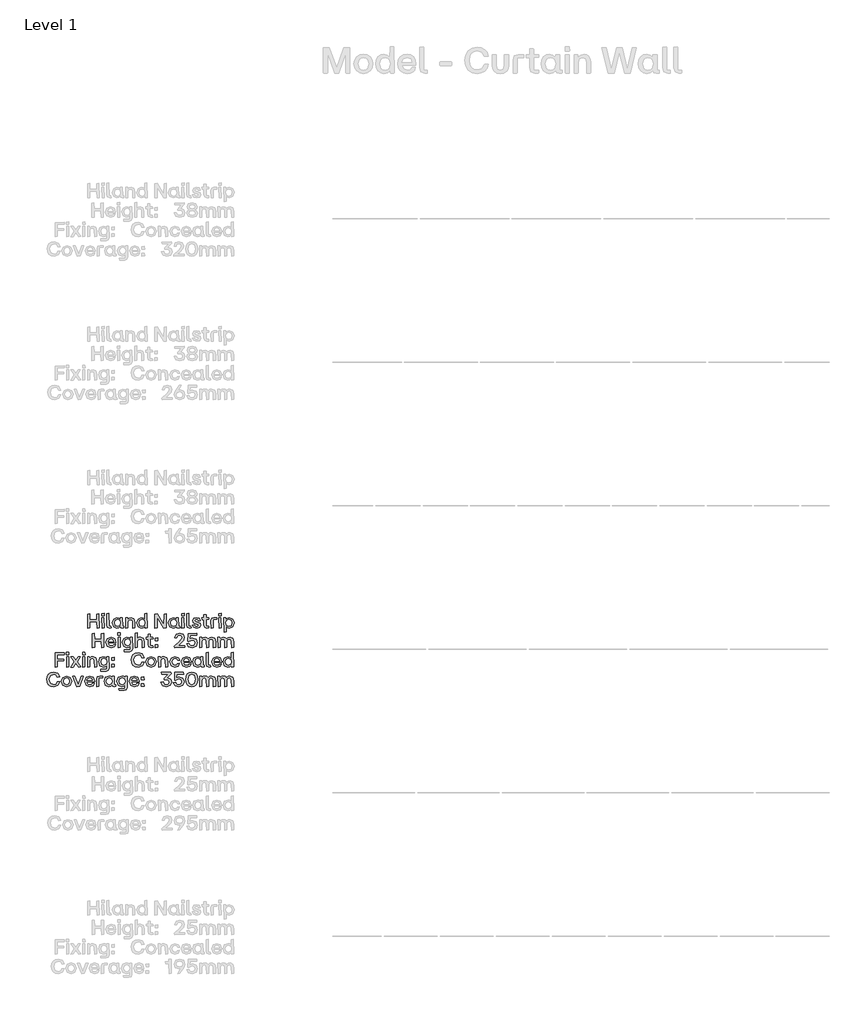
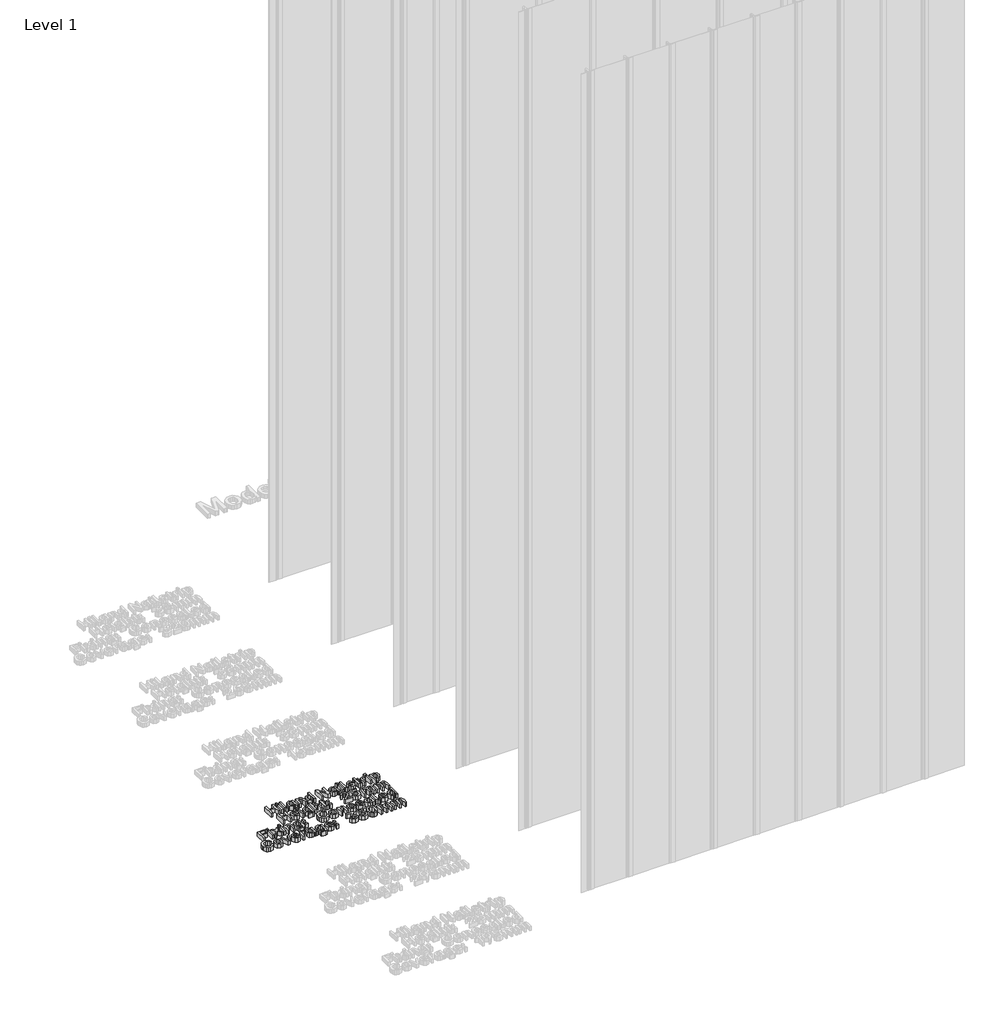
# One storey, part 12 of 64: 1 proxy.
"""IFC4 building model written with IfcOpenShell, lengths in millimetres."""

from ifc_helpers import new_model, si_unit, origin, origin_with_axes, place, context, project, spatial, polyline, outline, extrude, element, save

model = new_model("IFC4")

# Units and contexts
model_context = context("Model", 3, world=origin())
ifc_project = project(units=[si_unit("LENGTHUNIT", "METRE", prefix="MILLI")], contexts=[model_context])

# Site, building, storey
site = spatial("IfcSite", under=ifc_project)
building = spatial("IfcBuilding", under=site)
storey = spatial("IfcBuildingStorey", under=building, Name="Level 1", Elevation=0.0)

# Proxy
placement = place(None, origin())
element("IfcBuildingElementProxy", 1, Name="50mm", ObjectType="50mm", at=placement, inside=storey, context=model_context, shape_type="SweptSolid", body=[
    extrude(outline(polyline([(-779.9316481, -3433.5188866), (-780.6289799, -3411.5808277), (-804.4777279, -3411.5808277), (-804.4777279, -3432.8215548), (-811.9810183, -3433.5188866), (-812.7062434, -3384.2454206), (-805.2168997, -3383.5201955), (-804.4777279, -3404.6075096), (-780.6289799, -3404.6075096), (-780.6289799, -3384.2454206), (-773.1396362, -3383.5201955), (-772.4423044, -3432.8215548), (-779.9316481, -3433.5188866)])), origin_with_axes(), (0.0, 0.0, 1.0), 20.0),
    extrude(outline(polyline([(-762.3449397, -3433.5188866), (-763.0701648, -3397.8154977), (-755.8597538, -3397.1181659), (-755.162422, -3432.8215548), (-762.3449397, -3433.5188866)])), origin_with_axes(), (0.0, 0.0, 1.0), 20.0),
    extrude(outline(polyline([(-763.2793643, -3390.4516737), (-763.6280302, -3382.4044646), (-755.2321552, -3381.6652929), (-754.4929835, -3390.1030078), (-763.2793643, -3390.4516737)])), origin_with_axes(), (0.0, 0.0, 1.0), 20.0),
    extrude(outline(polyline([(-735.7626509, -3433.5188866), (-743.4611942, -3430.8690257), (-746.1110551, -3423.1565359), (-746.1110551, -3382.8228637), (-738.9006441, -3382.083692), (-738.2033123, -3427.2429003), (-731.5368201, -3427.2429003), (-730.8394883, -3432.8215548), (-735.7626509, -3433.5188866)])), origin_with_axes(), (0.0, 0.0, 1.0), 20.0),
    extrude(outline(polyline([(-710.6726522, -3433.9372857), (-722.4436133, -3428.8955767), (-726.8228571, -3415.3882594), (-722.4436133, -3401.7484491), (-710.6726522, -3396.6579269), (-704.0549733, -3398.2617901), (-699.0690509, -3402.6549805), (-698.7482782, -3397.8154977), (-691.5657605, -3397.1181659), (-690.8405354, -3427.2429003), (-686.8936374, -3427.2429003), (-686.1963056, -3432.8215548), (-692.1933592, -3433.5188866), (-696.848049, -3432.2113895), (-698.3996123, -3428.288898), (-703.7551206, -3432.3334225), (-710.6726522, -3433.9372857)]), holes=[polyline([(-718.7617013, -3415.3882594), (-716.0072406, -3424.2792401), (-708.4830304, -3427.521833), (-701.1192064, -3424.2931867), (-698.4693455, -3415.3882594), (-701.1401263, -3406.392679), (-708.4830304, -3403.1152195), (-716.0072406, -3406.392679), (-718.7617013, -3415.3882594)])]), origin_with_axes(), (0.0, 0.0, 1.0), 20.0),
    extrude(outline(polyline([(-679.3345605, -3433.5188866), (-680.0597856, -3397.8154977), (-673.1980405, -3397.1181659), (-672.5007087, -3402.6549805), (-667.3369666, -3398.1571903), (-660.7158011, -3396.6579269), (-651.1553819, -3400.8419178), (-647.8430558, -3413.0870644), (-647.8430558, -3432.8215548), (-655.0674134, -3433.5188866), (-655.7926384, -3413.0870644), (-657.7451675, -3405.7092939), (-663.9165541, -3403.3941522), (-670.1437272, -3405.7441604), (-672.1520428, -3413.0870644), (-672.1520428, -3432.8215548), (-679.3345605, -3433.5188866)])), origin_with_axes(), (0.0, 0.0, 1.0), 20.0),
    extrude(outline(polyline([(-624.9845189, -3433.9372857), (-636.7554799, -3428.8955767), (-641.1347237, -3415.3882594), (-636.7554799, -3401.7484491), (-624.9845189, -3396.6579269), (-618.36684, -3398.2617901), (-613.3809175, -3402.6549805), (-613.0601448, -3382.8228637), (-605.8776272, -3382.083692), (-605.1524021, -3432.8215548), (-612.0141471, -3433.5188866), (-612.7114789, -3428.0099653), (-618.0669873, -3432.3334225), (-624.9845189, -3433.9372857)]), holes=[polyline([(-633.0735679, -3415.3882594), (-630.3191073, -3424.2792401), (-622.794897, -3427.521833), (-615.431073, -3424.2931867), (-612.7812121, -3415.3882594), (-615.451993, -3406.392679), (-622.794897, -3403.1152195), (-630.3191073, -3406.392679), (-633.0735679, -3415.3882594)])]), origin_with_axes(), (0.0, 0.0, 1.0), 20.0),
    extrude(outline(polyline([(-578.1238209, -3433.5188866), (-578.849046, -3384.2454206), (-569.992932, -3383.5201955), (-546.7020494, -3420.7856077), (-546.4231166, -3384.2454206), (-539.2127057, -3383.5201955), (-538.5153739, -3432.8215548), (-547.329648, -3433.5188866), (-570.6205306, -3396.2395278), (-570.8994633, -3432.8215548), (-578.1238209, -3433.5188866)])), origin_with_axes(), (0.0, 0.0, 1.0), 20.0),
    extrude(outline(polyline([(-515.196598, -3433.9372857), (-526.967559, -3428.8955767), (-531.3468028, -3415.3882594), (-526.967559, -3401.7484491), (-515.196598, -3396.6579269), (-508.5789191, -3398.2617901), (-503.5929966, -3402.6549805), (-503.272224, -3397.8154977), (-496.0897063, -3397.1181659), (-495.3644812, -3427.2429003), (-491.4175831, -3427.2429003), (-490.7202513, -3432.8215548), (-496.7173049, -3433.5188866), (-501.3719948, -3432.2113895), (-502.923558, -3428.288898), (-508.2790664, -3432.3334225), (-515.196598, -3433.9372857)]), holes=[polyline([(-523.285647, -3415.3882594), (-520.5311864, -3424.2792401), (-513.0069761, -3427.521833), (-505.6431521, -3424.2931867), (-502.9932912, -3415.3882594), (-505.6640721, -3406.392679), (-513.0069761, -3403.1152195), (-520.5311864, -3406.392679), (-523.285647, -3415.3882594)])]), origin_with_axes(), (0.0, 0.0, 1.0), 20.0),
    extrude(outline(polyline([(-484.7929309, -3390.4516737), (-485.1415968, -3382.4044646), (-476.7457217, -3381.6652929), (-476.00655, -3390.1030078), (-484.7929309, -3390.4516737)])), origin_with_axes(), (0.0, 0.0, 1.0), 20.0),
    extrude(outline(polyline([(-483.8585062, -3433.5188866), (-484.5837313, -3397.8154977), (-477.3733204, -3397.1181659), (-476.6759885, -3432.8215548), (-483.8585062, -3433.5188866)])), origin_with_axes(), (0.0, 0.0, 1.0), 20.0),
    extrude(outline(polyline([(-457.2762175, -3433.5188866), (-464.9747607, -3430.8690257), (-467.6246216, -3423.1565359), (-467.6246216, -3382.8228637), (-460.4142106, -3382.083692), (-459.7168788, -3427.2429003), (-453.0503867, -3427.2429003), (-452.3530549, -3432.8215548), (-457.2762175, -3433.5188866)])), origin_with_axes(), (0.0, 0.0, 1.0), 20.0),
    extrude(outline(polyline([(-432.716191, -3433.9372857), (-443.4481276, -3430.9875721), (-447.9180245, -3422.5289372), (-440.9725996, -3421.7339789), (-437.890393, -3426.5455685), (-432.716191, -3427.8007657), (-428.2532673, -3426.6153017), (-426.579671, -3423.4354686), (-427.7790817, -3420.5764081), (-431.8375529, -3419.0841181), (-436.9280751, -3418.1775867), (-444.6545116, -3414.6351411), (-447.1509595, -3407.5363032), (-443.4899675, -3399.6215871), (-433.6227223, -3396.6579269), (-423.9298101, -3399.4123876), (-419.7039793, -3407.2294772), (-426.6494042, -3408.0244355), (-429.3968915, -3403.8613645), (-433.6227223, -3402.7944469), (-437.8764464, -3403.8962311), (-439.3408432, -3407.0900108), (-438.2948455, -3409.8584181), (-434.4874138, -3411.3716282), (-429.0482256, -3412.3897326), (-421.0358831, -3415.8763917), (-418.7695547, -3423.0170695), (-422.3956801, -3431.1130919), (-432.716191, -3433.9372857)])), origin_with_axes(), (0.0, 0.0, 1.0), 20.0),
    extrude(outline(polyline([(-396.9570155, -3433.5188866), (-404.6695054, -3430.8690257), (-407.3193663, -3423.1565359), (-407.3193663, -3403.3941522), (-413.5256194, -3403.3941522), (-414.2508445, -3397.8154977), (-407.3193663, -3397.1181659), (-407.3193663, -3387.104481), (-400.0950087, -3386.3792559), (-399.3976769, -3397.1181659), (-390.611296, -3397.1181659), (-389.8860709, -3402.6549805), (-399.3976769, -3403.3941522), (-399.3976769, -3427.2429003), (-390.611296, -3427.2429003), (-389.8860709, -3432.8215548), (-396.9570155, -3433.5188866)])), origin_with_axes(), (0.0, 0.0, 1.0), 20.0),
    extrude(outline(polyline([(-382.480407, -3433.5188866), (-383.1777388, -3407.4386768), (-380.5278779, -3399.7471068), (-372.8293347, -3397.1181659), (-362.6761835, -3397.1181659), (-361.9788517, -3403.1152195), (-375.2699961, -3403.8125513), (-375.2699961, -3432.8215548), (-382.480407, -3433.5188866)])), origin_with_axes(), (0.0, 0.0, 1.0), 20.0),
    extrude(outline(polyline([(-354.4337214, -3433.5188866), (-355.1589465, -3397.8154977), (-347.9485356, -3397.1181659), (-347.2512038, -3432.8215548), (-354.4337214, -3433.5188866)])), origin_with_axes(), (0.0, 0.0, 1.0), 20.0),
    extrude(outline(polyline([(-355.3681461, -3390.4516737), (-355.716812, -3382.4044646), (-347.3209369, -3381.6652929), (-346.5817652, -3390.1030078), (-355.3681461, -3390.4516737)])), origin_with_axes(), (0.0, 0.0, 1.0), 20.0),
    extrude(outline(polyline([(-337.4746117, -3447.0750171), (-338.1998368, -3397.8154977), (-331.3380917, -3397.1181659), (-330.6407599, -3402.5852473), (-325.2852516, -3398.2617901), (-318.36772, -3396.6579269), (-306.596759, -3401.7135826), (-302.2175152, -3415.2487931), (-306.596759, -3428.8607101), (-318.36772, -3433.9372857), (-324.9853989, -3432.3334225), (-329.9713214, -3427.9402321), (-330.292094, -3446.3776853), (-337.4746117, -3447.0750171)]), holes=[polyline([(-330.5710268, -3415.2487931), (-327.9002459, -3424.2443735), (-320.5573419, -3427.521833), (-313.0331316, -3424.2443735), (-310.2786709, -3415.2487931), (-313.0331316, -3406.3578124), (-320.5573419, -3403.1152195), (-327.9211659, -3406.3368925), (-330.5710268, -3415.2487931)])]), origin_with_axes(), (0.0, 0.0, 1.0), 20.0),
    extrude(outline(polyline([(-763.8651231, -3501.3705811), (-764.5624549, -3479.4325222), (-788.4112029, -3479.4325222), (-788.4112029, -3500.6732493), (-795.9144933, -3501.3705811), (-796.6397184, -3452.0971151), (-789.1503747, -3451.37189), (-788.4112029, -3472.459204), (-764.5624549, -3472.459204), (-764.5624549, -3452.0971151), (-757.0731112, -3451.37189), (-756.3757794, -3500.6732493), (-763.8651231, -3501.3705811)])), origin_with_axes(), (0.0, 0.0, 1.0), 20.0),
    extrude(outline(polyline([(-730.7279152, -3501.7889802), (-744.1306327, -3496.7472711), (-749.1374751, -3483.2399539), (-744.1515527, -3469.586197), (-730.7279152, -3464.5096214), (-718.447902, -3469.5164638), (-713.9501118, -3483.1702207), (-713.9501118, -3485.0809099), (-741.0065862, -3485.8200816), (-737.9383262, -3492.8631329), (-730.7279152, -3495.3735275), (-724.9400612, -3494.0974102), (-721.9415344, -3490.520098), (-714.8566431, -3489.9343393), (-719.5148197, -3498.6998002), (-730.7279152, -3501.7889802)]), holes=[polyline([(-740.936853, -3480.0322275), (-721.7323348, -3480.0322275), (-724.3752224, -3473.3866554), (-730.7279152, -3470.966914), (-737.8197798, -3473.2681089), (-740.936853, -3480.0322275)])]), origin_with_axes(), (0.0, 0.0, 1.0), 20.0),
    extrude(outline(polyline([(-707.0465268, -3458.3033682), (-707.3951927, -3450.2561591), (-698.9993177, -3449.5169873), (-698.2601459, -3457.9547023), (-707.0465268, -3458.3033682)])), origin_with_axes(), (0.0, 0.0, 1.0), 20.0),
    extrude(outline(polyline([(-706.1121022, -3501.3705811), (-706.8373273, -3465.6671922), (-699.6269163, -3464.9698603), (-698.9295845, -3500.6732493), (-706.1121022, -3501.3705811)])), origin_with_axes(), (0.0, 0.0, 1.0), 20.0),
    extrude(outline(polyline([(-684.4390294, -3514.9267115), (-685.1782011, -3509.348057), (-663.937474, -3508.6507252), (-663.937474, -3495.7919266), (-669.2441691, -3500.185117), (-675.8618481, -3501.7889802), (-687.6328091, -3496.7124045), (-692.0120529, -3483.1004875), (-687.6328091, -3469.565277), (-675.8618481, -3464.5096214), (-668.9443165, -3466.1134845), (-663.8677409, -3470.4369418), (-663.5888081, -3465.6671922), (-656.7549563, -3464.9698603), (-656.0297313, -3504.9269733), (-658.609859, -3512.3675038), (-666.0294695, -3514.9267115), (-684.4390294, -3514.9267115)]), holes=[polyline([(-683.9508971, -3483.1004875), (-681.1964364, -3492.0960679), (-673.6722262, -3495.3735275), (-666.3293222, -3492.0960679), (-663.6585413, -3483.1004875), (-666.3084022, -3474.1885869), (-673.6722262, -3470.966914), (-681.1964364, -3474.2095069), (-683.9508971, -3483.1004875)])]), origin_with_axes(), (0.0, 0.0, 1.0), 20.0),
    extrude(outline(polyline([(-646.3089258, -3501.3705811), (-647.0341508, -3450.6745581), (-639.8237399, -3449.9353864), (-639.1264081, -3470.2277422), (-634.0393725, -3465.9391516), (-627.6901663, -3464.5096214), (-618.1297471, -3468.6936122), (-614.817421, -3480.9387589), (-614.817421, -3500.6732493), (-622.0417786, -3501.3705811), (-622.7670037, -3480.9387589), (-624.7195328, -3473.5609883), (-630.8909193, -3471.2458467), (-637.1180924, -3473.5958549), (-639.1264081, -3480.9387589), (-639.1264081, -3500.6732493), (-646.3089258, -3501.3705811)])), origin_with_axes(), (0.0, 0.0, 1.0), 20.0),
    extrude(outline(polyline([(-591.540485, -3501.3705811), (-599.2529749, -3498.7207202), (-601.9028358, -3491.0082303), (-601.9028358, -3471.2458467), (-608.109089, -3471.2458467), (-608.834314, -3465.6671922), (-601.9028358, -3464.9698603), (-601.9028358, -3454.9561755), (-594.6784782, -3454.2309504), (-593.9811464, -3464.9698603), (-585.1947655, -3464.9698603), (-584.4695404, -3470.506675), (-593.9811464, -3471.2458467), (-593.9811464, -3495.0945947), (-585.1947655, -3495.0945947), (-584.4695404, -3500.6732493), (-591.540485, -3501.3705811)])), origin_with_axes(), (0.0, 0.0, 1.0), 20.0),
    extrude(outline(polyline([(-577.0638766, -3477.7310326), (-577.7612084, -3468.1078535), (-568.2774957, -3467.3686818), (-567.5522706, -3477.0337007), (-577.0638766, -3477.7310326)])), origin_with_axes(), (0.0, 0.0, 1.0), 20.0),
    extrude(outline(polyline([(-577.4125425, -3501.0219152), (-577.7612084, -3491.747402), (-568.2774957, -3491.0082303), (-567.5522706, -3500.6732493), (-577.4125425, -3501.0219152)])), origin_with_axes(), (0.0, 0.0, 1.0), 20.0),
    extrude(outline(polyline([(-509.5761036, -3501.3705811), (-510.3013286, -3496.5868848), (-492.9377665, -3480.590093), (-485.7901154, -3472.6753769), (-483.8027197, -3465.3882594), (-485.783142, -3459.7084918), (-491.7244091, -3457.8152359), (-498.5931275, -3459.8932847), (-501.4452146, -3466.4621504), (-508.8787717, -3467.1594822), (-504.2903284, -3454.9631488), (-491.7244091, -3450.9534909), (-479.8976615, -3454.8236824), (-475.5742043, -3465.3882594), (-478.2589318, -3475.1648515), (-487.4288451, -3485.5690422), (-496.8846645, -3494.0764903), (-474.1516474, -3494.355423), (-473.4543156, -3500.6732493), (-509.5761036, -3501.3705811)])), origin_with_axes(), (0.0, 0.0, 1.0), 20.0),
    extrude(outline(polyline([(-448.1969572, -3501.7889802), (-461.3974485, -3498.0931215), (-467.2062225, -3487.3821049), (-459.8423985, -3486.5871466), (-455.634001, -3493.0200326), (-448.1969572, -3494.9551284), (-440.7912934, -3492.2704009), (-438.197219, -3484.6625108), (-440.7773467, -3477.3614467), (-448.3364236, -3474.8719721), (-458.6987744, -3478.8049235), (-463.5382572, -3478.5259908), (-462.4922594, -3452.0971151), (-432.8556573, -3451.37189), (-432.1304322, -3457.6757696), (-455.8397139, -3458.3731014), (-456.6346722, -3471.0366471), (-451.4604701, -3468.8400519), (-445.7562959, -3468.0381203), (-434.2015077, -3472.4661774), (-429.9965969, -3484.6625108), (-434.8081864, -3497.27027), (-448.1969572, -3501.7889802)])), origin_with_axes(), (0.0, 0.0, 1.0), 20.0),
    extrude(outline(polyline([(-421.3775756, -3501.3705811), (-422.1028007, -3465.6671922), (-415.2410557, -3464.9698603), (-414.5437239, -3470.506675), (-409.5578014, -3466.0088848), (-403.1074821, -3464.5096214), (-396.8210358, -3466.0088848), (-392.605665, -3470.506675), (-386.7829443, -3466.0646713), (-379.5376668, -3464.5096214), (-370.2631536, -3468.6796656), (-367.0554273, -3480.9387589), (-367.0554273, -3500.6732493), (-374.2658383, -3501.3705811), (-374.9631701, -3480.9387589), (-376.845966, -3473.5609883), (-382.8151263, -3471.2458467), (-388.7215268, -3473.5958549), (-390.6252426, -3480.9387589), (-390.6252426, -3500.6732493), (-397.8356536, -3501.3705811), (-398.5329854, -3480.9387589), (-400.4018347, -3473.5609883), (-406.3152085, -3471.2458467), (-412.2913421, -3473.5958549), (-414.195058, -3480.9387589), (-414.195058, -3500.6732493), (-421.3775756, -3501.3705811)])), origin_with_axes(), (0.0, 0.0, 1.0), 20.0),
    extrude(outline(polyline([(-358.0040603, -3501.3705811), (-358.7292854, -3465.6671922), (-351.8675404, -3464.9698603), (-351.1702086, -3470.506675), (-346.1842861, -3466.0088848), (-339.7339668, -3464.5096214), (-333.4475205, -3466.0088848), (-329.2321497, -3470.506675), (-323.409429, -3466.0646713), (-316.1641515, -3464.5096214), (-306.8896383, -3468.6796656), (-303.681912, -3480.9387589), (-303.681912, -3500.6732493), (-310.8923229, -3501.3705811), (-311.5896548, -3480.9387589), (-313.4724507, -3473.5609883), (-319.441611, -3471.2458467), (-325.3480115, -3473.5958549), (-327.2517273, -3480.9387589), (-327.2517273, -3500.6732493), (-334.4621383, -3501.3705811), (-335.1594701, -3480.9387589), (-337.0283194, -3473.5609883), (-342.9416931, -3471.2458467), (-348.9178268, -3473.5958549), (-350.8215426, -3480.9387589), (-350.8215426, -3500.6732493), (-358.0040603, -3501.3705811)])), origin_with_axes(), (0.0, 0.0, 1.0), 20.0),
    extrude(outline(polyline([(-925.3392781, -3569.2222755), (-926.0645031, -3519.9488095), (-894.4753719, -3519.2235844), (-893.7780401, -3525.527464), (-917.8359877, -3526.2247958), (-917.8359877, -3541.287163), (-895.9118755, -3541.287163), (-895.2145437, -3547.5631494), (-917.8359877, -3548.3023211), (-917.8359877, -3568.5249437), (-925.3392781, -3569.2222755)])), origin_with_axes(), (0.0, 0.0, 1.0), 20.0),
    extrude(outline(polyline([(-885.5216314, -3569.2222755), (-886.2468565, -3533.5188866), (-879.0364456, -3532.8215548), (-878.3391137, -3568.5249437), (-885.5216314, -3569.2222755)])), origin_with_axes(), (0.0, 0.0, 1.0), 20.0),
    extrude(outline(polyline([(-886.4560561, -3526.1550627), (-886.804722, -3518.1078535), (-878.4088469, -3517.3686818), (-877.6696752, -3525.8063967), (-886.4560561, -3526.1550627)])), origin_with_axes(), (0.0, 0.0, 1.0), 20.0),
    extrude(outline(polyline([(-871.4215821, -3569.2222755), (-858.6604099, -3550.7429824), (-870.8637167, -3533.658353), (-862.8722941, -3532.8215548), (-854.0859132, -3544.815662), (-845.8573978, -3533.2399539), (-837.7404555, -3532.8215548), (-849.3440569, -3549.9340775), (-836.303952, -3568.3436374), (-844.2953746, -3569.2222755), (-854.0161801, -3555.7916648), (-863.2906932, -3568.8038764), (-871.4215821, -3569.2222755)])), origin_with_axes(), (0.0, 0.0, 1.0), 20.0),
    extrude(outline(polyline([(-829.2887939, -3569.2222755), (-830.014019, -3533.5188866), (-822.803608, -3532.8215548), (-822.1062762, -3568.5249437), (-829.2887939, -3569.2222755)])), origin_with_axes(), (0.0, 0.0, 1.0), 20.0),
    extrude(outline(polyline([(-830.2232185, -3526.1550627), (-830.5718844, -3518.1078535), (-822.1760094, -3517.3686818), (-821.4368377, -3525.8063967), (-830.2232185, -3526.1550627)])), origin_with_axes(), (0.0, 0.0, 1.0), 20.0),
    extrude(outline(polyline([(-812.3296842, -3569.2222755), (-813.0549093, -3533.5188866), (-806.1931642, -3532.8215548), (-805.4958324, -3538.3583694), (-800.3320903, -3533.8605792), (-793.7109247, -3532.3613158), (-784.1505056, -3536.5453067), (-780.8381794, -3548.7904534), (-780.8381794, -3568.5249437), (-788.062537, -3569.2222755), (-788.7877621, -3548.7904534), (-790.7402912, -3541.4126828), (-796.9116778, -3539.0975411), (-803.1388509, -3541.4475493), (-805.1471665, -3548.7904534), (-805.1471665, -3568.5249437), (-812.3296842, -3569.2222755)])), origin_with_axes(), (0.0, 0.0, 1.0), 20.0),
    extrude(outline(polyline([(-766.5568239, -3582.778406), (-767.2959956, -3577.1997515), (-746.0552685, -3576.5024197), (-746.0552685, -3563.643621), (-751.3619636, -3568.0368114), (-757.9796426, -3569.6406746), (-769.7506036, -3564.564099), (-774.1298474, -3550.952182), (-769.7506036, -3537.4169715), (-757.9796426, -3532.3613158), (-751.0621109, -3533.965179), (-745.9855353, -3538.2886362), (-745.7066026, -3533.5188866), (-738.8727508, -3532.8215548), (-738.1475257, -3572.7786678), (-740.7276535, -3580.2191982), (-748.147264, -3582.778406), (-766.5568239, -3582.778406)]), holes=[polyline([(-766.0686916, -3550.952182), (-763.3142309, -3559.9477624), (-755.7900207, -3563.2252219), (-748.4471166, -3559.9477624), (-745.7763358, -3550.952182), (-748.4261967, -3542.0402814), (-755.7900207, -3538.8186084), (-763.3142309, -3542.0612013), (-766.0686916, -3550.952182)])]), origin_with_axes(), (0.0, 0.0, 1.0), 20.0),
    extrude(outline(polyline([(-728.8032794, -3545.582727), (-729.5006112, -3535.959548), (-720.0168986, -3535.2203762), (-719.2916735, -3544.8853952), (-728.8032794, -3545.582727)])), origin_with_axes(), (0.0, 0.0, 1.0), 20.0),
    extrude(outline(polyline([(-729.1519453, -3568.8736096), (-729.5006112, -3559.5990965), (-720.0168986, -3558.8599248), (-719.2916735, -3568.5249437), (-729.1519453, -3568.8736096)])), origin_with_axes(), (0.0, 0.0, 1.0), 20.0),
    extrude(outline(polyline([(-637.0483593, -3569.6406746), (-647.0550708, -3567.9269817), (-654.7605874, -3562.7859029), (-659.6767766, -3554.7160305), (-661.3155064, -3544.2159567), (-659.66283, -3533.8919591), (-654.7048008, -3525.7924501), (-646.9853376, -3520.5520015), (-637.0483593, -3518.8051853), (-622.8716035, -3523.4215219), (-615.9192053, -3535.7085085), (-623.2411893, -3536.5174134), (-628.4049314, -3528.3272513), (-637.0483593, -3525.8063967), (-648.7077472, -3530.743506), (-652.9475246, -3544.2159567), (-648.7286672, -3557.7999804), (-637.0483593, -3562.6673565), (-628.2340851, -3560.1813685), (-623.5480153, -3552.7234048), (-616.1284048, -3552.0679129), (-622.5926707, -3565.0382846), (-637.0483593, -3569.6406746)])), origin_with_axes(), (0.0, 0.0, 1.0), 20.0),
    extrude(outline(polyline([(-591.693898, -3569.6406746), (-604.8525494, -3564.5152858), (-609.8942584, -3551.0916483), (-604.8386027, -3537.5564378), (-591.693898, -3532.3613158), (-578.4236736, -3537.5564378), (-573.3540713, -3551.0916483), (-578.4236736, -3564.5152858), (-591.693898, -3569.6406746)]), holes=[polyline([(-601.8331026, -3551.0916483), (-599.1344285, -3559.9965756), (-591.693898, -3563.2252219), (-584.1557411, -3559.982629), (-581.4012805, -3551.0916483), (-584.1417945, -3542.0960679), (-591.693898, -3538.8186084), (-599.1344285, -3542.0960679), (-601.8331026, -3551.0916483)])]), origin_with_axes(), (0.0, 0.0, 1.0), 20.0),
    extrude(outline(polyline([(-565.083716, -3569.2222755), (-565.8089411, -3533.5188866), (-558.947196, -3532.8215548), (-558.2498642, -3538.3583694), (-553.0861221, -3533.8605792), (-546.4649565, -3532.3613158), (-536.9045374, -3536.5453067), (-533.5922113, -3548.7904534), (-533.5922113, -3568.5249437), (-540.8165689, -3569.2222755), (-541.5417939, -3548.7904534), (-543.494323, -3541.4126828), (-549.6657096, -3539.0975411), (-555.8928827, -3541.4475493), (-557.9011983, -3548.7904534), (-557.9011983, -3568.5249437), (-565.083716, -3569.2222755)])), origin_with_axes(), (0.0, 0.0, 1.0), 20.0),
    extrude(outline(polyline([(-508.5440525, -3569.6406746), (-521.8770368, -3564.5989656), (-526.8838792, -3551.0916483), (-521.8073036, -3537.5564378), (-508.5440525, -3532.3613158), (-497.4704233, -3535.7991616), (-492.2543813, -3544.8853952), (-499.2695393, -3545.6524602), (-502.8398782, -3540.3527384), (-508.5440525, -3538.8186084), (-516.1031293, -3542.0960679), (-518.8227234, -3551.0916483), (-516.0891827, -3560.0174956), (-508.5440525, -3563.2252219), (-502.6655453, -3561.7608251), (-499.6879384, -3557.0189688), (-492.6030472, -3556.3495302), (-497.2612237, -3566.2028288), (-508.5440525, -3569.6406746)])), origin_with_axes(), (0.0, 0.0, 1.0), 20.0),
    extrude(outline(polyline([(-468.3080068, -3569.6406746), (-481.7107242, -3564.5989656), (-486.7175667, -3551.0916483), (-481.7316442, -3537.4378914), (-468.3080068, -3532.3613158), (-456.0279935, -3537.3681582), (-451.5302033, -3551.0219152), (-451.5302033, -3552.9326043), (-478.5866777, -3553.6717761), (-475.5184177, -3560.7148274), (-468.3080068, -3563.2252219), (-462.5201527, -3561.9491047), (-459.5216259, -3558.3717925), (-452.4367347, -3557.7860338), (-457.0949112, -3566.5514947), (-468.3080068, -3569.6406746)]), holes=[polyline([(-478.5169445, -3547.883922), (-459.3124264, -3547.883922), (-461.9553139, -3541.2383498), (-468.3080068, -3538.8186084), (-475.3998713, -3541.1198034), (-478.5169445, -3547.883922)])]), origin_with_axes(), (0.0, 0.0, 1.0), 20.0),
    extrude(outline(polyline([(-430.4010493, -3569.6406746), (-442.1720104, -3564.5989656), (-446.5512542, -3551.0916483), (-442.1720104, -3537.4518381), (-430.4010493, -3532.3613158), (-423.7833704, -3533.965179), (-418.7974479, -3538.3583694), (-418.4766753, -3533.5188866), (-411.2941576, -3532.8215548), (-410.5689325, -3562.9462892), (-406.6220345, -3562.9462892), (-405.9247026, -3568.5249437), (-411.9217562, -3569.2222755), (-416.5764461, -3567.9147784), (-418.1280094, -3563.9922869), (-423.4835177, -3568.0368114), (-430.4010493, -3569.6406746)]), holes=[polyline([(-438.4900984, -3551.0916483), (-435.7356377, -3559.982629), (-428.2114274, -3563.2252219), (-420.8476035, -3559.9965756), (-418.1977426, -3551.0916483), (-420.8685234, -3542.0960679), (-428.2114274, -3538.8186084), (-435.7356377, -3542.0960679), (-438.4900984, -3551.0916483)])]), origin_with_axes(), (0.0, 0.0, 1.0), 20.0),
    extrude(outline(polyline([(-389.4397785, -3569.2222755), (-397.1383218, -3566.5724146), (-399.7881827, -3558.8599248), (-399.7881827, -3518.5262526), (-392.5777717, -3517.7870809), (-391.8804399, -3562.9462892), (-385.2139477, -3562.9462892), (-384.5166159, -3568.5249437), (-389.4397785, -3569.2222755)])), origin_with_axes(), (0.0, 0.0, 1.0), 20.0),
    extrude(outline(polyline([(-362.0904248, -3569.6406746), (-375.4931422, -3564.5989656), (-380.4999847, -3551.0916483), (-375.5140622, -3537.4378914), (-362.0904248, -3532.3613158), (-349.8104115, -3537.3681582), (-345.3126213, -3551.0219152), (-345.3126213, -3552.9326043), (-372.3690957, -3553.6717761), (-369.3008357, -3560.7148274), (-362.0904248, -3563.2252219), (-356.3025707, -3561.9491047), (-353.3040439, -3558.3717925), (-346.2191527, -3557.7860338), (-350.8773292, -3566.5514947), (-362.0904248, -3569.6406746)]), holes=[polyline([(-372.2993625, -3547.883922), (-353.0948444, -3547.883922), (-355.7377319, -3541.2383498), (-362.0904248, -3538.8186084), (-369.1822893, -3541.1198034), (-372.2993625, -3547.883922)])]), origin_with_axes(), (0.0, 0.0, 1.0), 20.0),
    extrude(outline(polyline([(-324.1834673, -3569.6406746), (-335.9544284, -3564.5989656), (-340.3336722, -3551.0916483), (-335.9544284, -3537.4518381), (-324.1834673, -3532.3613158), (-317.5657884, -3533.965179), (-312.5798659, -3538.3583694), (-312.2590933, -3518.5262526), (-305.0765756, -3517.7870809), (-304.3513505, -3568.5249437), (-311.2130956, -3569.2222755), (-311.9104274, -3563.7133542), (-317.2659357, -3568.0368114), (-324.1834673, -3569.6406746)]), holes=[polyline([(-332.2725164, -3551.0916483), (-329.5180557, -3559.982629), (-321.9938454, -3563.2252219), (-314.6300215, -3559.9965756), (-311.9801606, -3551.0916483), (-314.6509414, -3542.0960679), (-321.9938454, -3538.8186084), (-329.5180557, -3542.0960679), (-332.2725164, -3551.0916483)])]), origin_with_axes(), (0.0, 0.0, 1.0), 20.0),
    extrude(outline(polyline([(-931.6013177, -3637.4923691), (-941.6080293, -3635.7786761), (-949.3135458, -3630.6375973), (-954.2297351, -3622.5677249), (-955.8684649, -3612.0676511), (-954.2157885, -3601.7436536), (-949.2577593, -3593.6441446), (-941.5382961, -3588.403696), (-931.6013177, -3586.6568798), (-917.424562, -3591.2732164), (-910.4721638, -3603.560203), (-917.7941478, -3604.3691079), (-922.9578899, -3596.1789457), (-931.6013177, -3593.6580912), (-943.2607057, -3598.5952004), (-947.5004831, -3612.0676511), (-943.2816256, -3625.6516749), (-931.6013177, -3630.5190509), (-922.7870436, -3628.033063), (-918.1009738, -3620.5750992), (-910.6813633, -3619.9196073), (-917.1456292, -3632.8899791), (-931.6013177, -3637.4923691)])), origin_with_axes(), (0.0, 0.0, 1.0), 20.0),
    extrude(outline(polyline([(-886.2468565, -3637.4923691), (-899.4055079, -3632.3669802), (-904.4472169, -3618.9433428), (-899.3915612, -3605.4081323), (-886.2468565, -3600.2130103), (-872.9766321, -3605.4081323), (-867.9070298, -3618.9433428), (-872.9766321, -3632.3669802), (-886.2468565, -3637.4923691)]), holes=[polyline([(-896.3860611, -3618.9433428), (-893.687387, -3627.8482701), (-886.2468565, -3631.0769164), (-878.7086996, -3627.8343234), (-875.9542389, -3618.9433428), (-878.694753, -3609.9477624), (-886.2468565, -3606.6703029), (-893.687387, -3609.9477624), (-896.3860611, -3618.9433428)])]), origin_with_axes(), (0.0, 0.0, 1.0), 20.0),
    extrude(outline(polyline([(-849.8042959, -3637.07397), (-864.1972245, -3601.5100474), (-856.9449737, -3600.6732493), (-845.5087319, -3630.5887841), (-834.6721955, -3601.2311147), (-827.3083716, -3600.6732493), (-840.4182097, -3636.5161045), (-849.8042959, -3637.07397)])), origin_with_axes(), (0.0, 0.0, 1.0), 20.0),
    extrude(outline(polyline([(-804.8124472, -3637.4923691), (-818.2151647, -3632.45066), (-823.2220071, -3618.9433428), (-818.2360846, -3605.2895859), (-804.8124472, -3600.2130103), (-792.532434, -3605.2198527), (-788.0346438, -3618.8736096), (-788.0346438, -3620.7842988), (-815.0911182, -3621.5234705), (-812.0228582, -3628.5665218), (-804.8124472, -3631.0769164), (-799.0245932, -3629.8007992), (-796.0260664, -3626.2234869), (-788.9411751, -3625.6377282), (-793.5993516, -3634.4031891), (-804.8124472, -3637.4923691)]), holes=[polyline([(-815.021385, -3615.7356165), (-795.8168668, -3615.7356165), (-798.4597544, -3609.0900443), (-804.8124472, -3606.6703029), (-811.9043118, -3608.9714978), (-815.021385, -3615.7356165)])]), origin_with_axes(), (0.0, 0.0, 1.0), 20.0),
    extrude(outline(polyline([(-780.5731933, -3637.07397), (-781.2705252, -3610.9937601), (-778.6206643, -3603.3021902), (-770.922121, -3600.6732493), (-760.7689698, -3600.6732493), (-760.071638, -3606.6703029), (-773.3627824, -3607.3676347), (-773.3627824, -3636.3766382), (-780.5731933, -3637.07397)])), origin_with_axes(), (0.0, 0.0, 1.0), 20.0),
    extrude(outline(polyline([(-739.2353634, -3637.4923691), (-751.0063244, -3632.45066), (-755.3855682, -3618.9433428), (-751.0063244, -3605.3035325), (-739.2353634, -3600.2130103), (-732.6176845, -3601.8168734), (-727.631762, -3606.2100639), (-727.3109893, -3601.3705811), (-720.1284717, -3600.6732493), (-719.4032466, -3630.7979836), (-715.4563485, -3630.7979836), (-714.7590167, -3636.3766382), (-720.7560703, -3637.07397), (-725.4107602, -3635.7664728), (-726.9623234, -3631.8439814), (-732.3178318, -3635.8885059), (-739.2353634, -3637.4923691)]), holes=[polyline([(-747.3244124, -3618.9433428), (-744.5699518, -3627.8343234), (-737.0457415, -3631.0769164), (-729.6819175, -3627.8482701), (-727.0320566, -3618.9433428), (-729.7028375, -3609.9477624), (-737.0457415, -3606.6703029), (-744.5699518, -3609.9477624), (-747.3244124, -3618.9433428)])]), origin_with_axes(), (0.0, 0.0, 1.0), 20.0),
    extrude(outline(polyline([(-703.1833086, -3650.6301005), (-703.9224803, -3645.0514459), (-682.6817532, -3644.3541141), (-682.6817532, -3631.4953155), (-687.9884483, -3635.8885059), (-694.6061272, -3637.4923691), (-706.3770883, -3632.4157935), (-710.7563321, -3618.8038764), (-706.3770883, -3605.2686659), (-694.6061272, -3600.2130103), (-687.6885956, -3601.8168734), (-682.61202, -3606.1403307), (-682.3330873, -3601.3705811), (-675.4992355, -3600.6732493), (-674.7740104, -3640.6303622), (-677.3541381, -3648.0708927), (-684.7737487, -3650.6301005), (-703.1833086, -3650.6301005)]), holes=[polyline([(-702.6951763, -3618.8038764), (-699.9407156, -3627.7994568), (-692.4165053, -3631.0769164), (-685.0736013, -3627.7994568), (-682.4028205, -3618.8038764), (-685.0526814, -3609.8919758), (-692.4165053, -3606.6703029), (-699.9407156, -3609.9128958), (-702.6951763, -3618.8038764)])]), origin_with_axes(), (0.0, 0.0, 1.0), 20.0),
    extrude(outline(polyline([(-649.5027055, -3637.4923691), (-662.9054229, -3632.45066), (-667.9122654, -3618.9433428), (-662.9263429, -3605.2895859), (-649.5027055, -3600.2130103), (-637.2226922, -3605.2198527), (-632.724902, -3618.8736096), (-632.724902, -3620.7842988), (-659.7813764, -3621.5234705), (-656.7131164, -3628.5665218), (-649.5027055, -3631.0769164), (-643.7148514, -3629.8007992), (-640.7163246, -3626.2234869), (-633.6314334, -3625.6377282), (-638.2896099, -3634.4031891), (-649.5027055, -3637.4923691)]), holes=[polyline([(-659.7116432, -3615.7356165), (-640.5071251, -3615.7356165), (-643.1500126, -3609.0900443), (-649.5027055, -3606.6703029), (-656.59457, -3608.9714978), (-659.7116432, -3615.7356165)])]), origin_with_axes(), (0.0, 0.0, 1.0), 20.0),
    extrude(outline(polyline([(-625.2634516, -3613.4344215), (-625.9607834, -3603.8112424), (-616.4770707, -3603.0720707), (-615.7518456, -3612.7370896), (-625.2634516, -3613.4344215)])), origin_with_axes(), (0.0, 0.0, 1.0), 20.0),
    extrude(outline(polyline([(-625.6121175, -3636.7253041), (-625.9607834, -3627.4507909), (-616.4770707, -3626.7116192), (-615.7518456, -3636.3766382), (-625.6121175, -3636.7253041)])), origin_with_axes(), (0.0, 0.0, 1.0), 20.0),
    extrude(outline(polyline([(-538.1388147, -3637.4923691), (-551.5345588, -3633.4269246), (-557.3572795, -3621.6629369), (-549.9934555, -3620.854032), (-545.8303846, -3628.4270555), (-538.1388147, -3630.6585173), (-530.9981369, -3628.2527225), (-528.348276, -3621.6629369), (-531.1166833, -3614.7942185), (-539.7845178, -3612.5976233), (-545.2237059, -3612.5976233), (-545.9210377, -3608.5112589), (-532.5601602, -3594.355423), (-555.265284, -3594.0764903), (-555.9905091, -3587.800504), (-522.2814892, -3587.0752789), (-521.5841574, -3591.8868684), (-534.484796, -3605.7916648), (-523.7598327, -3610.9170536), (-520.1476539, -3621.6629369), (-524.99411, -3633.238645), (-538.1388147, -3637.4923691)])), origin_with_axes(), (0.0, 0.0, 1.0), 20.0),
    extrude(outline(polyline([(-494.6113628, -3637.4923691), (-507.8118541, -3633.7965104), (-513.6206281, -3623.0854938), (-506.2568041, -3622.2905355), (-502.0484066, -3628.7234215), (-494.6113628, -3630.6585173), (-487.2056989, -3627.9737898), (-484.6116246, -3620.3658997), (-487.1917523, -3613.0648356), (-494.7508292, -3610.575361), (-505.1131799, -3614.5083125), (-509.9526627, -3614.2293797), (-508.906665, -3587.800504), (-479.2700629, -3587.0752789), (-478.5448378, -3593.3791585), (-502.2541195, -3594.0764903), (-503.0490778, -3606.740036), (-497.8748757, -3604.5434408), (-492.1707015, -3603.7415092), (-480.6159133, -3608.1695663), (-476.4110025, -3620.3658997), (-481.222592, -3632.9736589), (-494.6113628, -3637.4923691)])), origin_with_axes(), (0.0, 0.0, 1.0), 20.0),
    extrude(outline(polyline([(-449.8705536, -3637.4923691), (-458.7876842, -3635.8919926), (-465.1769869, -3631.090863), (-469.0210286, -3623.134307), (-470.3023758, -3612.0676511), (-469.0210286, -3601.0027385), (-465.1769869, -3593.0514125), (-458.7876842, -3588.255513), (-449.8705536, -3586.6568798), (-441.0092096, -3588.255513), (-434.6478001, -3593.0514125), (-430.8142184, -3601.0027385), (-429.5363579, -3612.0676511), (-430.8142184, -3623.134307), (-434.6478001, -3631.090863), (-441.0092096, -3635.8919926), (-449.8705536, -3637.4923691)]), holes=[polyline([(-459.0892802, -3597.9815485), (-461.934394, -3612.0676511), (-459.0892802, -3626.1746737), (-449.8705536, -3630.5190509), (-440.7355068, -3626.1258605), (-437.8764464, -3612.0746244), (-440.7355068, -3598.037335), (-449.8705536, -3593.6580912), (-459.0892802, -3597.9815485)])]), origin_with_axes(), (0.0, 0.0, 1.0), 20.0),
    extrude(outline(polyline([(-421.3775756, -3637.07397), (-422.1028007, -3601.3705811), (-415.2410557, -3600.6732493), (-414.5437239, -3606.2100639), (-409.5578014, -3601.7122737), (-403.1074821, -3600.2130103), (-396.8210358, -3601.7122737), (-392.605665, -3606.2100639), (-386.7829443, -3601.7680602), (-379.5376668, -3600.2130103), (-370.2631536, -3604.3830545), (-367.0554273, -3616.6421478), (-367.0554273, -3636.3766382), (-374.2658383, -3637.07397), (-374.9631701, -3616.6421478), (-376.845966, -3609.2643772), (-382.8151263, -3606.9492356), (-388.7215268, -3609.2992438), (-390.6252426, -3616.6421478), (-390.6252426, -3636.3766382), (-397.8356536, -3637.07397), (-398.5329854, -3616.6421478), (-400.4018347, -3609.2643772), (-406.3152085, -3606.9492356), (-412.2913421, -3609.2992438), (-414.195058, -3616.6421478), (-414.195058, -3636.3766382), (-421.3775756, -3637.07397)])), origin_with_axes(), (0.0, 0.0, 1.0), 20.0),
    extrude(outline(polyline([(-358.0040603, -3637.07397), (-358.7292854, -3601.3705811), (-351.8675404, -3600.6732493), (-351.1702086, -3606.2100639), (-346.1842861, -3601.7122737), (-339.7339668, -3600.2130103), (-333.4475205, -3601.7122737), (-329.2321497, -3606.2100639), (-323.409429, -3601.7680602), (-316.1641515, -3600.2130103), (-306.8896383, -3604.3830545), (-303.681912, -3616.6421478), (-303.681912, -3636.3766382), (-310.8923229, -3637.07397), (-311.5896548, -3616.6421478), (-313.4724507, -3609.2643772), (-319.441611, -3606.9492356), (-325.3480115, -3609.2992438), (-327.2517273, -3616.6421478), (-327.2517273, -3636.3766382), (-334.4621383, -3637.07397), (-335.1594701, -3616.6421478), (-337.0283194, -3609.2643772), (-342.9416931, -3606.9492356), (-348.9178268, -3609.2992438), (-350.8215426, -3616.6421478), (-350.8215426, -3636.3766382), (-358.0040603, -3637.07397)])), origin_with_axes(), (0.0, 0.0, 1.0), 20.0),
])

save(model, "model.ifc")
